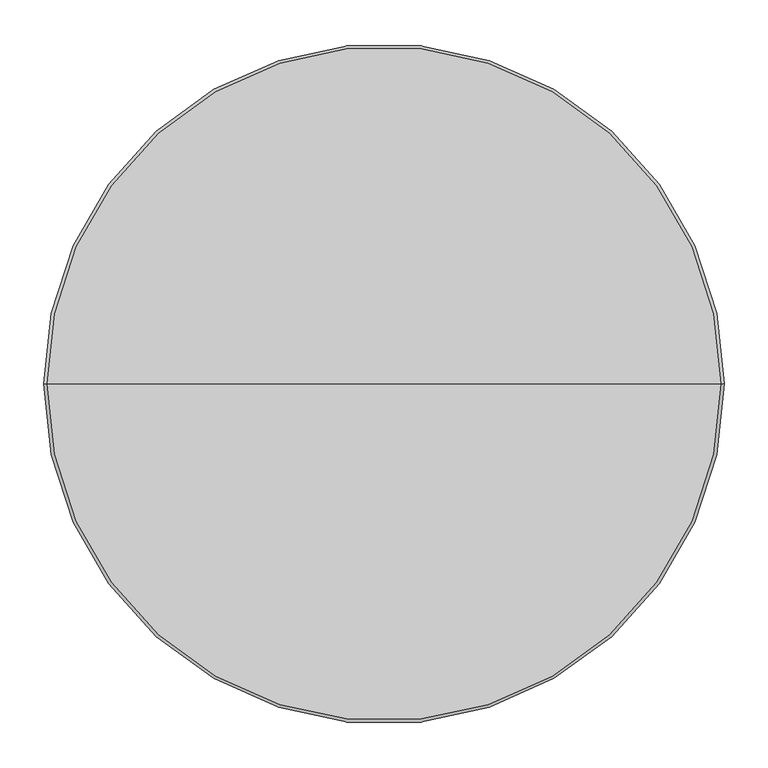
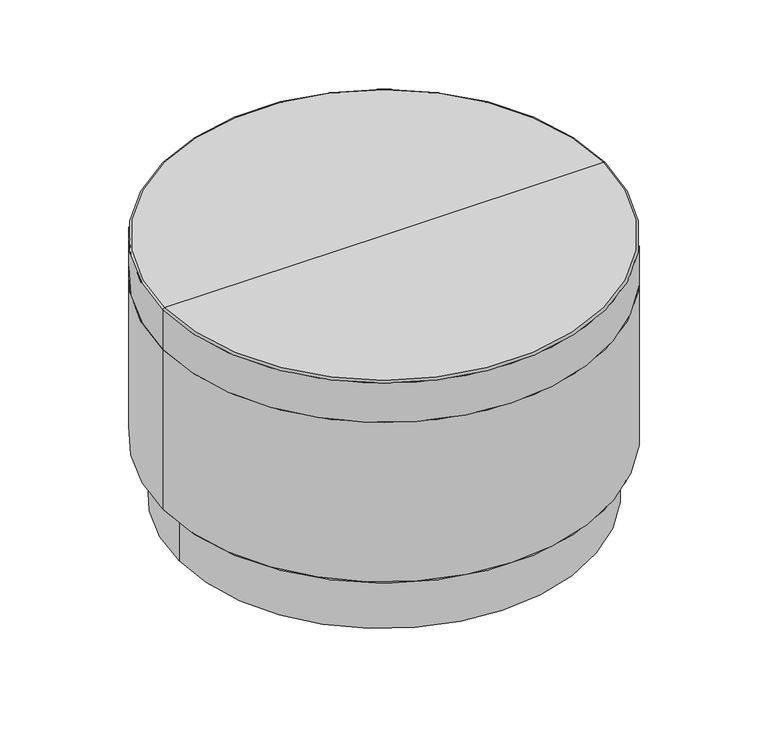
"""IFC4 building model written with IfcOpenShell, lengths in millimetres: furniture geometry, StanceHC-Drum_Table-Plinth_Base : 3-DRT30D20-U-PL."""

from ifc_helpers import new_model, si_unit, point, frame, frame_2d, origin, origin_with_axes, place, context, project, spatial, circle_curve, ellipse_curve, trimmed, segment, composite_curve, outline, extrude, source, transform, mapped, element, save
from ifc_brep_helpers import plane_surface, cylinder_surface, revolved_surface, advanced_brep


def furniture_9ab48ab8(model_context):
    return source(origin(), model_context, "Body", "SolidModel", [
        extrude(outline(composite_curve([segment(trimmed(circle_curve(frame_2d((0.0, 326.3164845)), 12.7), [point((-12.7, 326.3164845))], [point((12.7, 326.3164845))], False, "CARTESIAN"), True, "CONTINUOUS"), segment(trimmed(circle_curve(frame_2d((0.0, 326.3164845)), 12.7), [point((12.7, 326.3164845))], [point((-12.7, 326.3164845))], False, "CARTESIAN"), True, "CONTINUOUS")], self_intersect=False)), origin_with_axes(), (0.0, 0.0, 1.0), 4.7625),
        extrude(outline(composite_curve([segment(trimmed(circle_curve(frame_2d((0.0, -326.3164845)), 12.7), [point((-12.7, -326.3164845))], [point((12.7, -326.3164845))], False, "CARTESIAN"), True, "CONTINUOUS"), segment(trimmed(circle_curve(frame_2d((0.0, -326.3164845)), 12.7), [point((12.7, -326.3164845))], [point((-12.7, -326.3164845))], False, "CARTESIAN"), True, "CONTINUOUS")], self_intersect=False)), origin_with_axes(), (0.0, 0.0, 1.0), 4.7625),
        extrude(outline(composite_curve([segment(trimmed(circle_curve(frame_2d((330.1996404, 0.0)), 12.7), [point((317.4996404, 0.0))], [point((342.8996404, 0.0))], False, "CARTESIAN"), True, "CONTINUOUS"), segment(trimmed(circle_curve(frame_2d((330.1996404, 0.0)), 12.7), [point((342.8996404, 0.0))], [point((317.4996404, 0.0))], False, "CARTESIAN"), True, "CONTINUOUS")], self_intersect=False)), origin_with_axes(), (0.0, 0.0, 1.0), 4.7625),
        extrude(outline(composite_curve([segment(trimmed(circle_curve(frame_2d((-330.1996404, 0.0)), 12.7), [point((-342.8996404, 0.0))], [point((-317.4996404, 0.0))], False, "CARTESIAN"), True, "CONTINUOUS"), segment(trimmed(circle_curve(frame_2d((-330.1996404, 0.0)), 12.7), [point((-317.4996404, 0.0))], [point((-342.8996404, 0.0))], False, "CARTESIAN"), True, "CONTINUOUS")], self_intersect=False)), origin_with_axes(), (0.0, 0.0, 1.0), 4.7625),
        advanced_brep(
        [(-382.5542756, 0.0, 106.3625), (382.5542756, 0.0, 106.3625), (358.7746404, 0.0, 106.3625), (-358.7746404, 0.0, 106.3625), (-382.5542756, 0.0, 111.125), (382.5542756, 0.0, 111.125), (0.0, 0.0, 111.125), (-358.7746404, 0.0, 4.7625), (358.7746404, 0.0, 4.7625), (0.0, 0.0, 4.7625)],
        [
            (0, 1, circle_curve(frame((0.0, 0.0, 106.3625), z_axis=(0.0, 0.0, -1.0), x_axis=(1.0, 0.0, 0.0)), 382.5542756)),
            (1, 2),
            (2, 3, circle_curve(frame((0.0, 0.0, 106.3625), z_axis=(0.0, 0.0, 1.0), x_axis=(1.0, 0.0, 0.0)), 358.7746404)),
            (3, 0),
            (1, 0, circle_curve(frame((0.0, 0.0, 106.3625), z_axis=(0.0, 0.0, -1.0), x_axis=(1.0, 0.0, 0.0)), 382.5542756)),
            (3, 2, circle_curve(frame((0.0, 0.0, 106.3625), z_axis=(0.0, 0.0, 1.0), x_axis=(1.0, 0.0, 0.0)), 358.7746404)),
            (4, 5, circle_curve(frame((0.0, 0.0, 111.125), z_axis=(0.0, 0.0, -1.0), x_axis=(1.0, 0.0, 0.0)), 382.5542756)),
            (5, 1, circle_curve(frame((382.5542756, 0.0, 108.74375), z_axis=(0.0, 1.0, 0.0), x_axis=(1.0, 0.0, 0.0)), 2.38125)),
            (0, 4, circle_curve(frame((-382.5542756, 0.0, 108.74375), z_axis=(0.0, 1.0, 0.0), x_axis=(-1.0, 0.0, 0.0)), 2.38125)),
            (5, 4, circle_curve(frame((0.0, 0.0, 111.125), z_axis=(0.0, 0.0, -1.0), x_axis=(1.0, 0.0, 0.0)), 382.5542756)),
            (6, 5),
            (4, 6),
            (7, 8, circle_curve(frame((0.0, 0.0, 4.7625), z_axis=(0.0, 0.0, -1.0), x_axis=(1.0, 0.0, 0.0)), 358.7746404)),
            (8, 9),
            (9, 7),
            (8, 7, circle_curve(frame((0.0, 0.0, 4.7625), z_axis=(0.0, 0.0, -1.0), x_axis=(1.0, 0.0, 0.0)), 358.7746404)),
            (2, 8),
            (7, 3),
        ],
        [
            plane_surface(frame((0.0, 0.0, 106.3625), z_axis=(0.0, 0.0, -1.0), x_axis=(1.0, 0.0, 0.0))),
            revolved_surface(trimmed(ellipse_curve(frame((382.5542756, 0.0, 108.74375), z_axis=(0.0, -1.0, 0.0), x_axis=(1.0, 0.0, 0.0)), 2.38125, 2.38125), [point((382.5542756, 0.0, 106.3625))], [point((382.5542756, 0.0, 111.125))], True, "CARTESIAN"), (0.0, 0.0, 165.1), (0.0, 0.0, 1.0)),
            plane_surface(frame((0.0, 0.0, 111.125), z_axis=(0.0, 0.0, 1.0), x_axis=(1.0, 0.0, 0.0))),
            plane_surface(frame((0.0, 0.0, 4.7625), z_axis=(0.0, 0.0, -1.0), x_axis=(1.0, 0.0, 0.0))),
            cylinder_surface(frame((0.0, 0.0, 165.1), z_axis=(0.0, 0.0, 1.0), x_axis=(1.0, 0.0, 0.0)), 358.7746404),
        ],
        [
            (0, [[1, 2, 3, 4]]),
            (0, [[5, -4, 6, -2]]),
            (1, [[7, 8, -1, 9]]),
            (1, [[10, -9, -5, -8]]),
            (2, [[11, -7, 12]]),
            (2, [[-12, -10, -11]]),
            (3, [[13, 14, 15]]),
            (3, [[16, -15, -14]]),
            (4, [[-3, 17, -13, 18]]),
            (4, [[-6, -18, -16, -17]]),
        ],
    ),
        advanced_brep(
        [(0.0, 0.0, 406.4), (387.35, 0.0, 406.4), (-387.35, 0.0, 406.4), (-387.35, 0.0, 111.125), (387.35, 0.0, 111.125), (0.0, 0.0, 111.125)],
        [
            (0, 1),
            (1, 2, circle_curve(frame((0.0, 0.0, 406.4), z_axis=(0.0, 0.0, 1.0), x_axis=(1.0, 0.0, 0.0)), 387.35)),
            (2, 0),
            (2, 1, circle_curve(frame((0.0, 0.0, 406.4), z_axis=(0.0, 0.0, 1.0), x_axis=(1.0, 0.0, 0.0)), 387.35)),
            (3, 4, circle_curve(frame((0.0, 0.0, 111.125), z_axis=(0.0, 0.0, -1.0), x_axis=(1.0, 0.0, 0.0)), 387.35)),
            (4, 5),
            (5, 3),
            (4, 3, circle_curve(frame((0.0, 0.0, 111.125), z_axis=(0.0, 0.0, -1.0), x_axis=(1.0, 0.0, 0.0)), 387.35)),
            (1, 4),
            (3, 2),
        ],
        [
            plane_surface(frame((0.0, 0.0, 406.4), z_axis=(0.0, 0.0, 1.0), x_axis=(1.0, 0.0, 0.0))),
            plane_surface(frame((0.0, 0.0, 111.125), z_axis=(0.0, 0.0, -1.0), x_axis=(1.0, 0.0, 0.0))),
            cylinder_surface(frame((0.0, 0.0, 558.8), z_axis=(0.0, 0.0, 1.0), x_axis=(1.0, 0.0, 0.0)), 387.35),
        ],
        [
            (0, [[1, 2, 3]]),
            (0, [[-3, 4, -1]]),
            (1, [[5, 6, 7]]),
            (1, [[8, -7, -6]]),
            (2, [[-2, 9, -5, 10]]),
            (2, [[-4, -10, -8, -9]]),
        ],
    ),
        advanced_brep(
        [(-387.35, 0.0, 406.4), (387.35, 0.0, 406.4), (0.0, 0.0, 406.4), (-387.35, 0.0, 479.4764933), (387.35, 0.0, 479.4764933), (-384.2264933, 0.0, 482.6), (384.2264933, 0.0, 482.6), (0.0, 0.0, 482.6)],
        [
            (0, 1, circle_curve(frame((0.0, 0.0, 406.4), z_axis=(0.0, 0.0, -1.0), x_axis=(1.0, 0.0, 0.0)), 387.35)),
            (1, 2),
            (2, 0),
            (1, 0, circle_curve(frame((0.0, 0.0, 406.4), z_axis=(0.0, 0.0, -1.0), x_axis=(1.0, 0.0, 0.0)), 387.35)),
            (3, 4, circle_curve(frame((0.0, 0.0, 479.4764933), z_axis=(0.0, 0.0, -1.0), x_axis=(1.0, 0.0, 0.0)), 387.35)),
            (4, 1),
            (0, 3),
            (4, 3, circle_curve(frame((0.0, 0.0, 479.4764933), z_axis=(0.0, 0.0, -1.0), x_axis=(1.0, 0.0, 0.0)), 387.35)),
            (5, 6, circle_curve(frame((0.0, 0.0, 482.6), z_axis=(0.0, 0.0, -1.0), x_axis=(1.0, 0.0, 0.0)), 384.2264933)),
            (6, 4, circle_curve(frame((384.2264933, 0.0, 479.4764933), z_axis=(0.0, 1.0, 0.0), x_axis=(1.0, 0.0, 0.0)), 3.1235067)),
            (3, 5, circle_curve(frame((-384.2264933, 0.0, 479.4764933), z_axis=(0.0, 1.0, 0.0), x_axis=(-1.0, 0.0, 0.0)), 3.1235067)),
            (6, 5, circle_curve(frame((0.0, 0.0, 482.6), z_axis=(0.0, 0.0, -1.0), x_axis=(1.0, 0.0, 0.0)), 384.2264933)),
            (7, 6),
            (5, 7),
        ],
        [
            plane_surface(frame((0.0, 0.0, 406.4), z_axis=(0.0, 0.0, -1.0), x_axis=(1.0, 0.0, 0.0))),
            cylinder_surface(frame((0.0, 0.0, 577.85), z_axis=(0.0, 0.0, 1.0), x_axis=(1.0, 0.0, 0.0)), 387.35),
            revolved_surface(trimmed(ellipse_curve(frame((384.2264933, 0.0, 479.4764933), z_axis=(0.0, -1.0, 0.0), x_axis=(1.0, 0.0, 0.0)), 3.1235067, 3.1235067), [point((387.35, 0.0, 479.4764933))], [point((384.2264933, 0.0, 482.6))], True, "CARTESIAN"), (0.0, 0.0, 577.85), (0.0, 0.0, 1.0)),
            plane_surface(frame((0.0, 0.0, 482.6), z_axis=(0.0, 0.0, 1.0), x_axis=(1.0, 0.0, 0.0))),
        ],
        [
            (0, [[1, 2, 3]]),
            (0, [[4, -3, -2]]),
            (1, [[5, 6, -1, 7]]),
            (1, [[8, -7, -4, -6]]),
            (2, [[9, 10, -5, 11]]),
            (2, [[12, -11, -8, -10]]),
            (3, [[13, -9, 14]]),
            (3, [[-14, -12, -13]]),
        ],
    ),
    ])


if __name__ == "__main__":
    model = new_model("IFC4")
    model_context = context("Model", 3, world=origin())
    ifc_project = project(units=[si_unit("LENGTHUNIT", "METRE", prefix="MILLI")], contexts=[model_context])
    site = spatial("IfcSite", under=ifc_project)
    building = spatial("IfcBuilding", under=site)
    placement = place(None, origin())
    furniture_shape = furniture_9ab48ab8(model_context)
    element("IfcFurniture", 1, ObjectType="StanceHC-Drum_Table-Plinth_Base : 3-DRT30D20-U-PL", at=placement, inside=building, context=model_context, shape_type="MappedRepresentation", body=[
        mapped(furniture_shape, transform((0.0, 0.0, 0.0), x_axis=(1.0, 0.0, 0.0), y_axis=(0.0, 1.0, 0.0), z_axis=(0.0, 0.0, 1.0))),
    ])
    save(model, "model.ifc")
